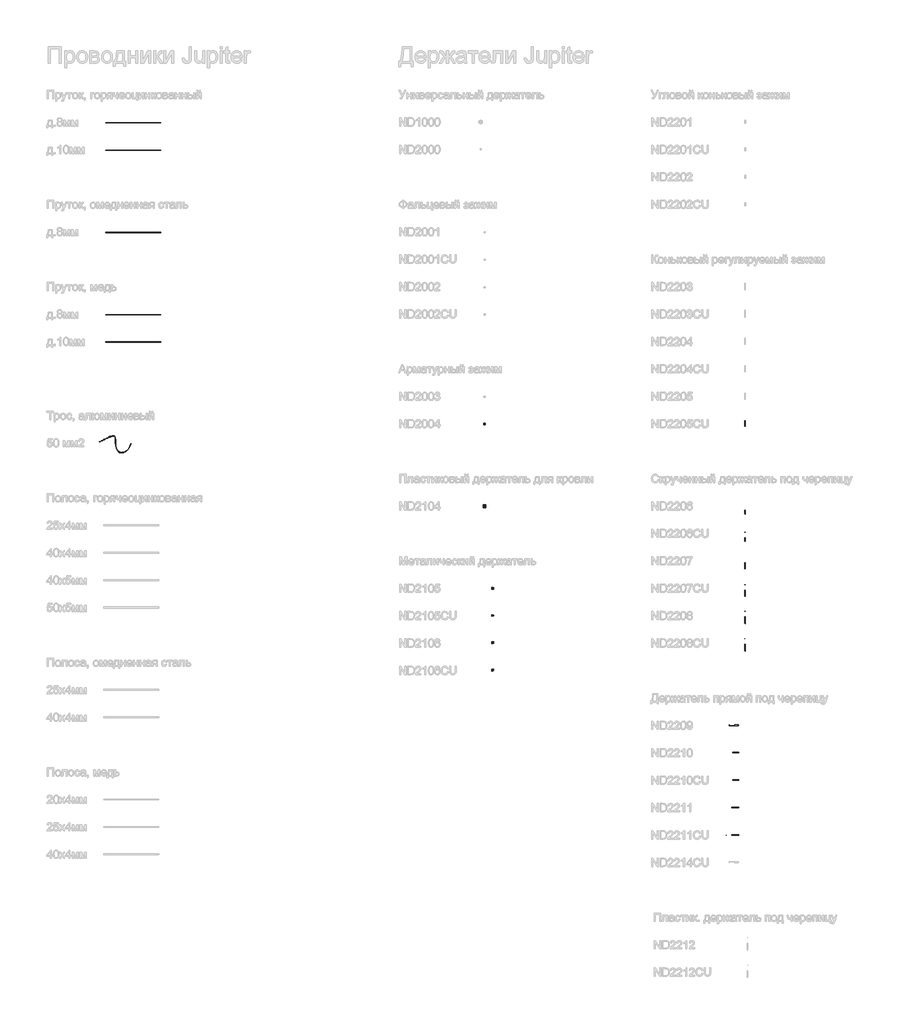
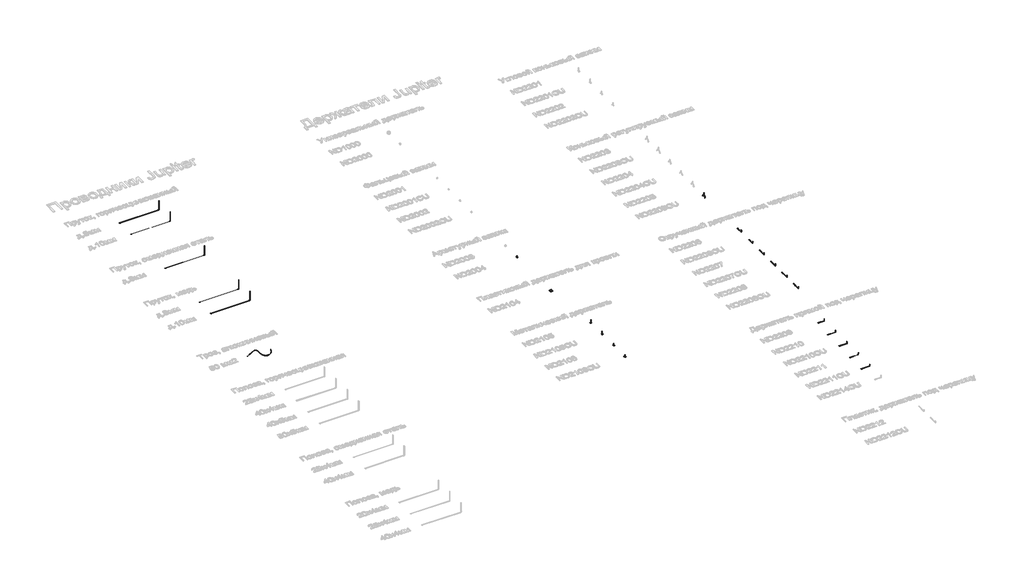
# One storey, part 3 of 124: 18 proxies, 11 duct segments, 5 duct fittings.
"""IFC4 building model written with IfcOpenShell, lengths in millimetres."""

from ifc_helpers import new_model, si_unit, point, frame, frame_2d, origin, place, context, project, spatial, circle_curve, ellipse_curve, trimmed, segment, composite_curve, outline, extrude, transform, mapped, element, save
from ifc_brep_helpers import plane_surface, cylinder_surface, advanced_brep
from components import security_devices_46811bfe, security_devices_d11747f8, security_devices_0d63e940, security_devices_2193f6d6, security_devices_3cd45d94, security_devices_07f9beaf, security_devices_07dcc4bf, security_devices_0ba9905d, security_devices_241d8431, security_devices_8fedeb6c, security_devices_5349010f, duct_fitting_cd562be5, duct_fitting_c2324ee3

model = new_model("IFC4")

# Units and contexts
model_context = context("Model", 3, world=origin())
ifc_project = project(units=[si_unit("LENGTHUNIT", "METRE", prefix="MILLI")], contexts=[model_context])

# Site, building, storey
site = spatial("IfcSite", under=ifc_project)
building = spatial("IfcBuilding", under=site)
storey = spatial("IfcBuildingStorey", under=building, Name="Этаж 01", Elevation=0.0)

# Proxies
placement = place(None, origin())
security_devices_shape = security_devices_46811bfe(model_context)
element("IfcBuildingElementProxy", 1, Name="КНС_ЗажимКоньковыйРегулируемый_DKC : ND2205CU_Медь", ObjectType="КНС_ЗажимКоньковыйРегулируемый_DKC : ND2205CU_Медь", at=placement, inside=storey, context=model_context, shape_type="MappedRepresentation", body=[
    mapped(security_devices_shape, transform((26740.3450598, -16375.2224286, 0.0), x_axis=(1.0, 0.0, 0.0), y_axis=(0.0, 1.0, 0.0), z_axis=(0.0, 0.0, 1.0))),
])
security_devices_2_shape = security_devices_d11747f8(model_context)
element("IfcBuildingElementProxy", 2, Name="КНС_ДержательПрямойПодЧерепицу_DKC : ND2209_Сталь горячеоцинкованная_330 мм", ObjectType="КНС_ДержательПрямойПодЧерепицу_DKC : ND2209_Сталь горячеоцинкованная_330 мм", at=placement, inside=storey, context=model_context, shape_type="MappedRepresentation", body=[
    mapped(security_devices_2_shape, transform((26500.3450598, -27365.2224286, 0.0), x_axis=(0.0, 1.0, 0.0), y_axis=(-1.0, 0.0, 0.0), z_axis=(0.0, 0.0, 1.0))),
])
security_devices_3_shape = security_devices_0d63e940(model_context)
element("IfcBuildingElementProxy", 3, Name="КНС_ДержательПрямойПодЧерепицу_DKC : ND2210_Сталь горячеоцинкованная_415 мм", ObjectType="КНС_ДержательПрямойПодЧерепицу_DKC : ND2210_Сталь горячеоцинкованная_415 мм", at=placement, inside=storey, context=model_context, shape_type="MappedRepresentation", body=[
    mapped(security_devices_3_shape, transform((26500.3450598, -28365.2224286, 0.0), x_axis=(0.0, 1.0, 0.0), y_axis=(-1.0, 0.0, 0.0), z_axis=(0.0, 0.0, 1.0))),
])
element("IfcBuildingElementProxy", 4, Name="КНС_ДержательПрямойПодЧерепицу_DKC : ND2210CU_Медь_415 мм", ObjectType="КНС_ДержательПрямойПодЧерепицу_DKC : ND2210CU_Медь_415 мм", at=placement, inside=storey, context=model_context, shape_type="MappedRepresentation", body=[
    mapped(security_devices_3_shape, transform((26500.3450598, -29365.2224286, 0.0), x_axis=(0.0, 1.0, 0.0), y_axis=(-1.0, 0.0, 0.0), z_axis=(0.0, 0.0, 1.0))),
])
security_devices_4_shape = security_devices_2193f6d6(model_context)
element("IfcBuildingElementProxy", 5, Name="КНС_ДержательПрямойПодЧерепицу_DKC : ND2211_Сталь горячеоцинкованная_450 мм", ObjectType="КНС_ДержательПрямойПодЧерепицу_DKC : ND2211_Сталь горячеоцинкованная_450 мм", at=placement, inside=storey, context=model_context, shape_type="MappedRepresentation", body=[
    mapped(security_devices_4_shape, transform((26500.3450598, -30365.2224286, 0.0), x_axis=(0.0, 1.0, 0.0), y_axis=(-1.0, 0.0, 0.0), z_axis=(0.0, 0.0, 1.0))),
])
element("IfcBuildingElementProxy", 6, Name="КНС_ДержательПрямойПодЧерепицу_DKC : ND2211CU_Медь_450 мм", ObjectType="КНС_ДержательПрямойПодЧерепицу_DKC : ND2211CU_Медь_450 мм", at=placement, inside=storey, context=model_context, shape_type="MappedRepresentation", body=[
    mapped(security_devices_4_shape, transform((26500.3450598, -31365.2224286, 0.0), x_axis=(0.0, 1.0, 0.0), y_axis=(-1.0, 0.0, 0.0), z_axis=(0.0, 0.0, 1.0))),
])
security_devices_5_shape = security_devices_3cd45d94(model_context)
element("IfcBuildingElementProxy", 7, Name="КНС_ЗажимАрматурный_DKC : ND2004_Гальванически оцинкованнная сталь_С наконечником", ObjectType="КНС_ЗажимАрматурный_DKC : ND2004_Гальванически оцинкованнная сталь_С наконечником", at=placement, inside=storey, context=model_context, shape_type="MappedRepresentation", body=[
    mapped(security_devices_5_shape, transform((17240.3450598, -16385.2224286, 0.0), x_axis=(1.0, 0.0, 0.0), y_axis=(0.0, 1.0, 0.0), z_axis=(0.0, 0.0, 1.0))),
])
security_devices_6_shape = security_devices_07f9beaf(model_context)
element("IfcBuildingElementProxy", 8, Name="КНС_ДержательПластиковыйДляКровли_DKC : ND2104_Полипропилен", ObjectType="КНС_ДержательПластиковыйДляКровли_DKC : ND2104_Полипропилен", at=placement, inside=storey, context=model_context, shape_type="MappedRepresentation", body=[
    mapped(security_devices_6_shape, transform((17240.3450598, -19385.2224286, 0.0), x_axis=(1.0, 0.0, 0.0), y_axis=(0.0, 1.0, 0.0), z_axis=(0.0, 0.0, 1.0))),
])
security_devices_7_shape = security_devices_07dcc4bf(model_context)
element("IfcBuildingElementProxy", 9, Name="КНС_ДержательМеталлический_DKC : ND2105_Горячеоцинкованная сталь_150 мм", ObjectType="КНС_ДержательМеталлический_DKC : ND2105_Горячеоцинкованная сталь_150 мм", at=placement, inside=storey, context=model_context, shape_type="MappedRepresentation", body=[
    mapped(security_devices_7_shape, transform((17540.3450598, -22365.2224286, 0.0), x_axis=(1.0, 0.0, 0.0), y_axis=(0.0, 1.0, 0.0), z_axis=(0.0, 0.0, 1.0))),
])
security_devices_8_shape = security_devices_0ba9905d(model_context)
element("IfcBuildingElementProxy", 10, Name="КНС_ДержательМеталлический_DKC : ND2106_Горячеоцинкованная сталь_100 мм", ObjectType="КНС_ДержательМеталлический_DKC : ND2106_Горячеоцинкованная сталь_100 мм", at=placement, inside=storey, context=model_context, shape_type="MappedRepresentation", body=[
    mapped(security_devices_8_shape, transform((17540.3450598, -24365.2224286, 0.0), x_axis=(1.0, 0.0, 0.0), y_axis=(0.0, 1.0, 0.0), z_axis=(0.0, 0.0, 1.0))),
])
element("IfcBuildingElementProxy", 11, Name="КНС_ДержательМеталлический_DKC : ND2105CU_Медь_150 мм", ObjectType="КНС_ДержательМеталлический_DKC : ND2105CU_Медь_150 мм", at=placement, inside=storey, context=model_context, shape_type="MappedRepresentation", body=[
    mapped(security_devices_7_shape, transform((17540.3450598, -23365.2224286, 0.0), x_axis=(1.0, 0.0, 0.0), y_axis=(0.0, 1.0, 0.0), z_axis=(0.0, 0.0, 1.0))),
])
element("IfcBuildingElementProxy", 12, Name="КНС_ДержательМеталлический_DKC : ND2106CU_Медь_100 мм", ObjectType="КНС_ДержательМеталлический_DKC : ND2106CU_Медь_100 мм", at=placement, inside=storey, context=model_context, shape_type="MappedRepresentation", body=[
    mapped(security_devices_8_shape, transform((17540.3450598, -25365.2224286, 0.0), x_axis=(1.0, 0.0, 0.0), y_axis=(0.0, 1.0, 0.0), z_axis=(0.0, 0.0, 1.0))),
])
security_devices_9_shape = security_devices_241d8431(model_context)
element("IfcBuildingElementProxy", 13, Name="КНС_ДержательСкрученныйПодЧерепицу_DKC : ND2206_Сталь горячеоцинкованная_330 мм", ObjectType="КНС_ДержательСкрученныйПодЧерепицу_DKC : ND2206_Сталь горячеоцинкованная_330 мм", at=placement, inside=storey, context=model_context, shape_type="MappedRepresentation", body=[
    mapped(security_devices_9_shape, transform((26740.3450598, -19665.2224286, 0.0), x_axis=(1.0, 0.0, 0.0), y_axis=(0.0, 1.0, 0.0), z_axis=(0.0, 0.0, 1.0))),
])
security_devices_10_shape = security_devices_8fedeb6c(model_context)
element("IfcBuildingElementProxy", 14, Name="КНС_ДержательСкрученныйПодЧерепицу_DKC : ND2207_Сталь горячеоцинкованная_415 мм", ObjectType="КНС_ДержательСкрученныйПодЧерепицу_DKC : ND2207_Сталь горячеоцинкованная_415 мм", at=placement, inside=storey, context=model_context, shape_type="MappedRepresentation", body=[
    mapped(security_devices_10_shape, transform((26740.3450598, -21665.2224286, 0.0), x_axis=(1.0, 0.0, 0.0), y_axis=(0.0, 1.0, 0.0), z_axis=(0.0, 0.0, 1.0))),
])
element("IfcBuildingElementProxy", 15, Name="КНС_ДержательСкрученныйПодЧерепицу_DKC : ND2207CU_Медь_415 мм", ObjectType="КНС_ДержательСкрученныйПодЧерепицу_DKC : ND2207CU_Медь_415 мм", at=placement, inside=storey, context=model_context, shape_type="MappedRepresentation", body=[
    mapped(security_devices_10_shape, transform((26740.3450598, -22665.2224286, 0.0), x_axis=(1.0, 0.0, 0.0), y_axis=(0.0, 1.0, 0.0), z_axis=(0.0, 0.0, 1.0))),
])
security_devices_11_shape = security_devices_5349010f(model_context)
element("IfcBuildingElementProxy", 16, Name="КНС_ДержательСкрученныйПодЧерепицу_DKC : ND2208_Сталь горячеоцинкованная_450 мм", ObjectType="КНС_ДержательСкрученныйПодЧерепицу_DKC : ND2208_Сталь горячеоцинкованная_450 мм", at=placement, inside=storey, context=model_context, shape_type="MappedRepresentation", body=[
    mapped(security_devices_11_shape, transform((26740.3450598, -23665.2224286, 0.0), x_axis=(1.0, 0.0, 0.0), y_axis=(0.0, 1.0, 0.0), z_axis=(0.0, 0.0, 1.0))),
])
element("IfcBuildingElementProxy", 17, Name="КНС_ДержательСкрученныйПодЧерепицу_DKC : ND2208CU_Медь_450 мм", ObjectType="КНС_ДержательСкрученныйПодЧерепицу_DKC : ND2208CU_Медь_450 мм", at=placement, inside=storey, context=model_context, shape_type="MappedRepresentation", body=[
    mapped(security_devices_11_shape, transform((26740.3450598, -24665.2224286, 0.0), x_axis=(1.0, 0.0, 0.0), y_axis=(0.0, 1.0, 0.0), z_axis=(0.0, 0.0, 1.0))),
])
element("IfcBuildingElementProxy", 18, Name="КНС_ДержательСкрученныйПодЧерепицу_DKC : ND2206CU_Медь_330 мм", ObjectType="КНС_ДержательСкрученныйПодЧерепицу_DKC : ND2206CU_Медь_330 мм", at=placement, inside=storey, context=model_context, shape_type="MappedRepresentation", body=[
    mapped(security_devices_9_shape, transform((26740.3450598, -20665.2224286, 0.0), x_axis=(1.0, 0.0, 0.0), y_axis=(0.0, 1.0, 0.0), z_axis=(0.0, 0.0, 1.0))),
])

# Duct fittings
duct_fitting_shape = duct_fitting_cd562be5(model_context)
element("IfcDuctFitting", 19, ObjectType="КНС_Поворот_Пруток_Неспецифицируемое_DKC : Стандарт", at=placement, inside=storey, context=model_context, shape_type="MappedRepresentation", body=[
    mapped(duct_fitting_shape, transform((5428.5248849, -5395.1979836, 0.0), x_axis=(1.0, 0.0, 0.0), y_axis=(0.0, 0.0, 1.0), z_axis=(0.0, -1.0, 0.0))),
])
element("IfcDuctFitting", 20, ObjectType="КНС_Поворот_Пруток_Неспецифицируемое_DKC : Стандарт", at=placement, inside=storey, context=model_context, shape_type="MappedRepresentation", body=[
    mapped(duct_fitting_shape, transform((5428.5248849, -9395.1979836, 0.0), x_axis=(1.0, 0.0, 0.0), y_axis=(0.0, 0.0, 1.0), z_axis=(0.0, -1.0, 0.0))),
])
element("IfcDuctFitting", 21, ObjectType="КНС_Поворот_Пруток_Неспецифицируемое_DKC : Стандарт", at=placement, inside=storey, context=model_context, shape_type="MappedRepresentation", body=[
    mapped(duct_fitting_shape, transform((5428.5248849, -12395.1979836, 0.0), x_axis=(0.0, 0.0, -1.0), y_axis=(-1.0, 0.0, 0.0), z_axis=(0.0, 1.0, 0.0))),
])
duct_fitting_2_shape = duct_fitting_c2324ee3(model_context)
element("IfcDuctFitting", 22, ObjectType="КНС_Поворот_Пруток_Неспецифицируемое_DKC : Стандарт", at=placement, inside=storey, context=model_context, shape_type="MappedRepresentation", body=[
    mapped(duct_fitting_2_shape, transform((5428.5248849, -6395.1979836, 0.0), x_axis=(1.0, 0.0, 0.0), y_axis=(0.0, 0.0, 1.0), z_axis=(0.0, -1.0, 0.0))),
])
element("IfcDuctFitting", 23, ObjectType="КНС_Поворот_Пруток_Неспецифицируемое_DKC : Стандарт", at=placement, inside=storey, context=model_context, shape_type="MappedRepresentation", body=[
    mapped(duct_fitting_2_shape, transform((5428.5248849, -13395.1979836, 0.0), x_axis=(1.0, 0.0, 0.0), y_axis=(0.0, 0.0, 1.0), z_axis=(0.0, -1.0, 0.0))),
])

# Duct segments
element("IfcDuctSegment", 24, ObjectType="КНС_Пруток_Горячеоцинкованный_8/10мм_DKC", at=placement, inside=storey, context=model_context, shape_type="SweptSolid", body=[
    extrude(outline(composite_curve([segment(trimmed(circle_curve(frame_2d((-5395.1979836, 0.0)), 4.0), [point((-5399.1979836, 0.0))], [point((-5395.1979836, 4.0))], False, "CARTESIAN"), True, "CONTINUOUS"), segment(trimmed(circle_curve(frame_2d((-5395.1979836, 0.0)), 4.0), [point((-5395.1979836, 4.0))], [point((-5391.1979836, 0.0))], False, "CARTESIAN"), True, "CONTINUOUS"), segment(trimmed(circle_curve(frame_2d((-5395.1979836, 0.0)), 4.0), [point((-5391.1979836, 0.0))], [point((-5395.1979836, -4.0))], False, "CARTESIAN"), True, "CONTINUOUS"), segment(trimmed(circle_curve(frame_2d((-5395.1979836, 0.0)), 4.0), [point((-5395.1979836, -4.0))], [point((-5399.1979836, 0.0))], False, "CARTESIAN"), True, "CONTINUOUS")], self_intersect=False)), frame((3428.5248849, 0.0, 0.0), z_axis=(1.0, 0.0, 0.0), x_axis=(0.0, 1.0, 0.0)), (0.0, 0.0, 1.0), 1992.0),
])
element("IfcDuctSegment", 25, ObjectType="КНС_Пруток_Горячеоцинкованный_8/10мм_DKC", at=placement, inside=storey, context=model_context, shape_type="SweptSolid", body=[
    extrude(outline(composite_curve([segment(trimmed(circle_curve(frame_2d((5428.5248849, -5395.1979836)), 4.0), [point((5428.5248849, -5399.1979836))], [point((5424.5248849, -5395.1979836))], False, "CARTESIAN"), True, "CONTINUOUS"), segment(trimmed(circle_curve(frame_2d((5428.5248849, -5395.1979836)), 4.0), [point((5424.5248849, -5395.1979836))], [point((5428.5248849, -5391.1979836))], False, "CARTESIAN"), True, "CONTINUOUS"), segment(trimmed(circle_curve(frame_2d((5428.5248849, -5395.1979836)), 4.0), [point((5428.5248849, -5391.1979836))], [point((5432.5248849, -5395.1979836))], False, "CARTESIAN"), True, "CONTINUOUS"), segment(trimmed(circle_curve(frame_2d((5428.5248849, -5395.1979836)), 4.0), [point((5432.5248849, -5395.1979836))], [point((5428.5248849, -5399.1979836))], False, "CARTESIAN"), True, "CONTINUOUS")], self_intersect=False)), frame((0.0, 0.0, 8.0), z_axis=(0.0, 0.0, 1.0), x_axis=(1.0, 0.0, 0.0)), (0.0, 0.0, 1.0), 492.0),
])
element("IfcDuctSegment", 26, ObjectType="КНС_Пруток_Горячеоцинкованный_8/10мм_DKC", at=placement, inside=storey, context=model_context, shape_type="SweptSolid", body=[
    extrude(outline(composite_curve([segment(trimmed(circle_curve(frame_2d((-6395.1979836, 0.0)), 5.0), [point((-6400.1979836, 0.0))], [point((-6395.1979836, 5.0))], False, "CARTESIAN"), True, "CONTINUOUS"), segment(trimmed(circle_curve(frame_2d((-6395.1979836, 0.0)), 5.0), [point((-6395.1979836, 5.0))], [point((-6390.1979836, 0.0))], False, "CARTESIAN"), True, "CONTINUOUS"), segment(trimmed(circle_curve(frame_2d((-6395.1979836, 0.0)), 5.0), [point((-6390.1979836, 0.0))], [point((-6395.1979836, -5.0))], False, "CARTESIAN"), True, "CONTINUOUS"), segment(trimmed(circle_curve(frame_2d((-6395.1979836, 0.0)), 5.0), [point((-6395.1979836, -5.0))], [point((-6400.1979836, 0.0))], False, "CARTESIAN"), True, "CONTINUOUS")], self_intersect=False)), frame((3428.5248849, 0.0, 0.0), z_axis=(1.0, 0.0, 0.0), x_axis=(0.0, 1.0, 0.0)), (0.0, 0.0, 1.0), 1990.0),
])
element("IfcDuctSegment", 27, ObjectType="КНС_Пруток_Горячеоцинкованный_8/10мм_DKC", at=placement, inside=storey, context=model_context, shape_type="SweptSolid", body=[
    extrude(outline(composite_curve([segment(trimmed(circle_curve(frame_2d((5428.5248849, -6395.1979836)), 5.0), [point((5428.5248849, -6400.1979836))], [point((5423.5248849, -6395.1979836))], False, "CARTESIAN"), True, "CONTINUOUS"), segment(trimmed(circle_curve(frame_2d((5428.5248849, -6395.1979836)), 5.0), [point((5423.5248849, -6395.1979836))], [point((5428.5248849, -6390.1979836))], False, "CARTESIAN"), True, "CONTINUOUS"), segment(trimmed(circle_curve(frame_2d((5428.5248849, -6395.1979836)), 5.0), [point((5428.5248849, -6390.1979836))], [point((5433.5248849, -6395.1979836))], False, "CARTESIAN"), True, "CONTINUOUS"), segment(trimmed(circle_curve(frame_2d((5428.5248849, -6395.1979836)), 5.0), [point((5433.5248849, -6395.1979836))], [point((5428.5248849, -6400.1979836))], False, "CARTESIAN"), True, "CONTINUOUS")], self_intersect=False)), frame((0.0, 0.0, 10.0), z_axis=(0.0, 0.0, 1.0), x_axis=(1.0, 0.0, 0.0)), (0.0, 0.0, 1.0), 490.0),
])
element("IfcDuctSegment", 28, ObjectType="КНС_Пруток_ОмедненнаяСталь_8_DKC", at=placement, inside=storey, context=model_context, shape_type="SweptSolid", body=[
    extrude(outline(composite_curve([segment(trimmed(circle_curve(frame_2d((-9395.1979836, 0.0)), 4.0), [point((-9399.1979836, 0.0))], [point((-9395.1979836, 4.0))], False, "CARTESIAN"), True, "CONTINUOUS"), segment(trimmed(circle_curve(frame_2d((-9395.1979836, 0.0)), 4.0), [point((-9395.1979836, 4.0))], [point((-9391.1979836, 0.0))], False, "CARTESIAN"), True, "CONTINUOUS"), segment(trimmed(circle_curve(frame_2d((-9395.1979836, 0.0)), 4.0), [point((-9391.1979836, 0.0))], [point((-9395.1979836, -4.0))], False, "CARTESIAN"), True, "CONTINUOUS"), segment(trimmed(circle_curve(frame_2d((-9395.1979836, 0.0)), 4.0), [point((-9395.1979836, -4.0))], [point((-9399.1979836, 0.0))], False, "CARTESIAN"), True, "CONTINUOUS")], self_intersect=False)), frame((3428.5248849, 0.0, 0.0), z_axis=(1.0, 0.0, 0.0), x_axis=(0.0, 1.0, 0.0)), (0.0, 0.0, 1.0), 1992.0),
])
element("IfcDuctSegment", 29, ObjectType="КНС_Пруток_ОмедненнаяСталь_8_DKC", at=placement, inside=storey, context=model_context, shape_type="SweptSolid", body=[
    extrude(outline(composite_curve([segment(trimmed(circle_curve(frame_2d((5428.5248849, -9395.1979836)), 4.0), [point((5428.5248849, -9399.1979836))], [point((5424.5248849, -9395.1979836))], False, "CARTESIAN"), True, "CONTINUOUS"), segment(trimmed(circle_curve(frame_2d((5428.5248849, -9395.1979836)), 4.0), [point((5424.5248849, -9395.1979836))], [point((5428.5248849, -9391.1979836))], False, "CARTESIAN"), True, "CONTINUOUS"), segment(trimmed(circle_curve(frame_2d((5428.5248849, -9395.1979836)), 4.0), [point((5428.5248849, -9391.1979836))], [point((5432.5248849, -9395.1979836))], False, "CARTESIAN"), True, "CONTINUOUS"), segment(trimmed(circle_curve(frame_2d((5428.5248849, -9395.1979836)), 4.0), [point((5432.5248849, -9395.1979836))], [point((5428.5248849, -9399.1979836))], False, "CARTESIAN"), True, "CONTINUOUS")], self_intersect=False)), frame((0.0, 0.0, 8.0), z_axis=(0.0, 0.0, 1.0), x_axis=(1.0, 0.0, 0.0)), (0.0, 0.0, 1.0), 492.0),
])
element("IfcDuctSegment", 30, ObjectType="КНС_Пруток_Медь_8/10мм_DKC", at=placement, inside=storey, context=model_context, shape_type="SweptSolid", body=[
    extrude(outline(composite_curve([segment(trimmed(circle_curve(frame_2d((-12395.1979836, 0.0)), 4.0), [point((-12391.1979836, 0.0))], [point((-12395.1979836, -4.0))], False, "CARTESIAN"), True, "CONTINUOUS"), segment(trimmed(circle_curve(frame_2d((-12395.1979836, 0.0)), 4.0), [point((-12395.1979836, -4.0))], [point((-12399.1979836, 0.0))], False, "CARTESIAN"), True, "CONTINUOUS"), segment(trimmed(circle_curve(frame_2d((-12395.1979836, 0.0)), 4.0), [point((-12399.1979836, 0.0))], [point((-12395.1979836, 4.0))], False, "CARTESIAN"), True, "CONTINUOUS"), segment(trimmed(circle_curve(frame_2d((-12395.1979836, 0.0)), 4.0), [point((-12395.1979836, 4.0))], [point((-12391.1979836, 0.0))], False, "CARTESIAN"), True, "CONTINUOUS")], self_intersect=False)), frame((3428.5248849, 0.0, 0.0), z_axis=(1.0, 0.0, 0.0), x_axis=(0.0, 1.0, 0.0)), (0.0, 0.0, 1.0), 1992.0),
])
element("IfcDuctSegment", 31, ObjectType="КНС_Пруток_Медь_8/10мм_DKC", at=placement, inside=storey, context=model_context, shape_type="SweptSolid", body=[
    extrude(outline(composite_curve([segment(trimmed(circle_curve(frame_2d((5428.5248849, -12395.1979836)), 4.0), [point((5428.5248849, -12391.1979836))], [point((5432.5248849, -12395.1979836))], False, "CARTESIAN"), True, "CONTINUOUS"), segment(trimmed(circle_curve(frame_2d((5428.5248849, -12395.1979836)), 4.0), [point((5432.5248849, -12395.1979836))], [point((5428.5248849, -12399.1979836))], False, "CARTESIAN"), True, "CONTINUOUS"), segment(trimmed(circle_curve(frame_2d((5428.5248849, -12395.1979836)), 4.0), [point((5428.5248849, -12399.1979836))], [point((5424.5248849, -12395.1979836))], False, "CARTESIAN"), True, "CONTINUOUS"), segment(trimmed(circle_curve(frame_2d((5428.5248849, -12395.1979836)), 4.0), [point((5424.5248849, -12395.1979836))], [point((5428.5248849, -12391.1979836))], False, "CARTESIAN"), True, "CONTINUOUS")], self_intersect=False)), frame((0.0, 0.0, 8.0), z_axis=(0.0, 0.0, 1.0), x_axis=(1.0, 0.0, 0.0)), (0.0, 0.0, 1.0), 492.0),
])
element("IfcDuctSegment", 32, ObjectType="КНС_Пруток_Медь_8/10мм_DKC", at=placement, inside=storey, context=model_context, shape_type="SweptSolid", body=[
    extrude(outline(composite_curve([segment(trimmed(circle_curve(frame_2d((-13395.1979836, 0.0)), 5.0), [point((-13400.1979836, 0.0))], [point((-13395.1979836, 5.0))], False, "CARTESIAN"), True, "CONTINUOUS"), segment(trimmed(circle_curve(frame_2d((-13395.1979836, 0.0)), 5.0), [point((-13395.1979836, 5.0))], [point((-13390.1979836, 0.0))], False, "CARTESIAN"), True, "CONTINUOUS"), segment(trimmed(circle_curve(frame_2d((-13395.1979836, 0.0)), 5.0), [point((-13390.1979836, 0.0))], [point((-13395.1979836, -5.0))], False, "CARTESIAN"), True, "CONTINUOUS"), segment(trimmed(circle_curve(frame_2d((-13395.1979836, 0.0)), 5.0), [point((-13395.1979836, -5.0))], [point((-13400.1979836, 0.0))], False, "CARTESIAN"), True, "CONTINUOUS")], self_intersect=False)), frame((3428.5248849, 0.0, 0.0), z_axis=(1.0, 0.0, 0.0), x_axis=(0.0, 1.0, 0.0)), (0.0, 0.0, 1.0), 1990.0),
])
element("IfcDuctSegment", 33, ObjectType="КНС_Пруток_Медь_8/10мм_DKC", at=placement, inside=storey, context=model_context, shape_type="SweptSolid", body=[
    extrude(outline(composite_curve([segment(trimmed(circle_curve(frame_2d((5428.5248849, -13395.1979836)), 5.0), [point((5428.5248849, -13400.1979836))], [point((5423.5248849, -13395.1979836))], False, "CARTESIAN"), True, "CONTINUOUS"), segment(trimmed(circle_curve(frame_2d((5428.5248849, -13395.1979836)), 5.0), [point((5423.5248849, -13395.1979836))], [point((5428.5248849, -13390.1979836))], False, "CARTESIAN"), True, "CONTINUOUS"), segment(trimmed(circle_curve(frame_2d((5428.5248849, -13395.1979836)), 5.0), [point((5428.5248849, -13390.1979836))], [point((5433.5248849, -13395.1979836))], False, "CARTESIAN"), True, "CONTINUOUS"), segment(trimmed(circle_curve(frame_2d((5428.5248849, -13395.1979836)), 5.0), [point((5433.5248849, -13395.1979836))], [point((5428.5248849, -13400.1979836))], False, "CARTESIAN"), True, "CONTINUOUS")], self_intersect=False)), frame((0.0, 0.0, 10.0), z_axis=(0.0, 0.0, 1.0), x_axis=(1.0, 0.0, 0.0)), (0.0, 0.0, 1.0), 490.0),
])
element("IfcDuctSegment", 34, ObjectType="КНС_Трос_Алюминиевый_DKC", at=placement, inside=storey, context=model_context, shape_type="AdvancedBrep", body=[
    advanced_brep(
    [(3194.4862504, -17028.2825187, 0.0), (3196.4641242, -17032.8746876, -5.0), (3198.441998, -17037.4668565, 0.0), (3196.4641242, -17032.8746876, 5.0), (3279.2612409, -16991.7694385, 0.0), (3281.3885088, -16996.2972625, -5.0), (3283.5157766, -17000.8250866, 0.0), (3281.3885088, -16996.2972625, 5.0), (4337.6199948, -17093.4071514, 0.0), (4342.2882836, -17095.1979836, 5.0), (4346.9565724, -17096.9888158, 0.0), (4342.2882836, -17095.1979836, -5.0), (3371.3969075, -16944.766342, 0.0), (3373.6690714, -16949.2202472, -5.0), (3375.9412353, -16953.6741523, 0.0), (3373.6690714, -16949.2202472, 5.0), (3465.4284082, -16895.13407, 0.0), (3467.7623479, -16899.5559164, -5.0), (3470.0962877, -16903.9777627, 0.0), (3467.7623479, -16899.5559164, 5.0), (3556.12426, -16850.62872, 0.0), (3558.124874, -16855.2165451, -5.0), (3560.125488, -16859.8043702, 0.0), (3558.124874, -16855.2165451, 5.0), (3637.9315422, -16819.2508157, 0.0), (3639.2131855, -16824.1144083, -5.0), (3640.4948289, -16828.978001, 0.0), (3639.2131855, -16824.1144083, 5.0), (3706.1189776, -16809.0103199, 0.0), (3705.4838181, -16814.161781, -5.0), (3704.8486587, -16819.3132421, 0.0), (3705.4838181, -16814.161781, 5.0), (3755.1846144, -16829.4331471, 0.0), (3751.3933256, -16833.2709172, -5.0), (3747.6020367, -16837.1086873, 0.0), (3751.3933256, -16833.2709172, 5.0), (3779.0720504, -16884.9073124, 0.0), (3774.1660912, -16886.1564661, -5.0), (3769.260132, -16887.4056198, 0.0), (3774.1660912, -16886.1564661, 5.0), (3786.4798109, -16965.168101, 0.0), (3781.484671, -16965.4510087, -5.0), (3776.489531, -16965.7339165, 0.0), (3781.484671, -16965.4510087, 5.0), (3788.4977093, -17060.7122554, 0.0), (3783.5012774, -17060.9339932, -5.0), (3778.5048455, -17061.1557309, 0.0), (3783.5012774, -17060.9339932, 5.0), (3795.3312892, -17161.6716624, 0.0), (3790.368123, -17162.3848673, -5.0), (3785.4049567, -17163.0980721, 0.0), (3790.368123, -17162.3848673, 5.0), (3816.6440642, -17257.9460643, 0.0), (3811.8883233, -17259.5962538, -5.0), (3807.1325823, -17261.2464434, 0.0), (3811.8883233, -17259.5962538, 5.0), (3856.1331051, -17339.6699782, 0.0), (3851.9873692, -17342.582594, -5.0), (3847.8416333, -17345.4952098, 0.0), (3851.9873692, -17342.582594, 5.0), (3912.4511953, -17397.199003, 0.0), (3909.7063807, -17401.5426624, -5.0), (3906.9615662, -17405.8863218, 0.0), (3909.7063807, -17401.5426624, 5.0), (3984.3209258, -17421.9025843, 0.0), (3983.7602081, -17426.9969772, -5.0), (3983.1994903, -17432.09137, 0.0), (3983.7602081, -17426.9969772, 5.0), (4067.020635, -17412.6157902, 0.0), (4068.3420192, -17417.4988317, -5.0), (4069.6634033, -17422.3818732, 0.0), (4068.3420192, -17417.4988317, 5.0), (4150.2746469, -17375.7631197, 0.0), (4152.8715355, -17380.0815548, -5.0), (4155.4684242, -17384.39999, 0.0), (4152.8715355, -17380.0815548, 5.0), (4222.9195957, -17318.670213, 0.0), (4226.5401193, -17322.1841559, -5.0), (4230.160643, -17325.6980988, 0.0), (4226.5401193, -17322.1841559, 5.0), (4274.5963013, -17248.7123677, 0.0), (4278.9633646, -17251.2156752, -5.0), (4283.330428, -17253.7189828, 0.0), (4278.9633646, -17251.2156752, 5.0), (4307.5366364, -17171.8275668, 0.0), (4312.1704694, -17173.7082171, -5.0), (4316.8043025, -17175.5888674, 0.0), (4312.1704694, -17173.7082171, 5.0)],
    [
        (0, 1, circle_curve(frame((3196.4641242, -17032.8746876, 0.0), z_axis=(-0.9184337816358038, -0.3955747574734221, 0.0), x_axis=(-0.3955747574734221, 0.9184337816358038, 0.0)), 5.0)),
        (1, 2, circle_curve(frame((3196.4641242, -17032.8746876, 0.0), z_axis=(-0.9184337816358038, -0.3955747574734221, 0.0), x_axis=(-0.3955747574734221, 0.9184337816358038, 0.0)), 5.0)),
        (2, 3, circle_curve(frame((3196.4641242, -17032.8746876, 0.0), z_axis=(-0.9184337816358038, -0.3955747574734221, 0.0), x_axis=(-0.3955747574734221, 0.9184337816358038, 0.0)), 5.0)),
        (3, 0, circle_curve(frame((3196.4641242, -17032.8746876, 0.0), z_axis=(-0.9184337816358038, -0.3955747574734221, 0.0), x_axis=(-0.3955747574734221, 0.9184337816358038, 0.0)), 5.0)),
        (0, 4),
        (4, 5, ellipse_curve(frame((3281.3885088, -16996.2972625, 0.0), z_axis=(-0.9050859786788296, -0.42522861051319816, 0.0), x_axis=(-0.4252286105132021, 0.9050859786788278, 0.0)), 5.0026452, 5.0)),
        (5, 1),
        (5, 6, ellipse_curve(frame((3281.3885088, -16996.2972625, 0.0), z_axis=(-0.9050859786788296, -0.42522861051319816, 0.0), x_axis=(-0.4252286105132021, 0.9050859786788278, 0.0)), 5.0026452, 5.0)),
        (6, 2),
        (6, 7, ellipse_curve(frame((3281.3885088, -16996.2972625, 0.0), z_axis=(-0.9050859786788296, -0.42522861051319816, 0.0), x_axis=(-0.4252286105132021, 0.9050859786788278, 0.0)), 5.0026452, 5.0)),
        (7, 3),
        (7, 4, ellipse_curve(frame((3281.3885088, -16996.2972625, 0.0), z_axis=(-0.9050859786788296, -0.42522861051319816, 0.0), x_axis=(-0.4252286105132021, 0.9050859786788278, 0.0)), 5.0026452, 5.0)),
        (8, 9, circle_curve(frame((4342.2882836, -17095.1979836, 0.0), z_axis=(0.3581664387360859, 0.9336577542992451, 0.0), x_axis=(-0.9336577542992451, 0.3581664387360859, 0.0)), 5.0)),
        (9, 10, circle_curve(frame((4342.2882836, -17095.1979836, 0.0), z_axis=(0.3581664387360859, 0.9336577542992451, 0.0), x_axis=(-0.9336577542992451, 0.3581664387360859, 0.0)), 5.0)),
        (10, 11, circle_curve(frame((4342.2882836, -17095.1979836, 0.0), z_axis=(0.3581664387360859, 0.9336577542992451, 0.0), x_axis=(-0.9336577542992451, 0.3581664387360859, 0.0)), 5.0)),
        (11, 8, circle_curve(frame((4342.2882836, -17095.1979836, 0.0), z_axis=(0.3581664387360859, 0.9336577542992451, 0.0), x_axis=(-0.9336577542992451, 0.3581664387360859, 0.0)), 5.0)),
        (4, 12),
        (12, 13, circle_curve(frame((3373.6690714, -16949.2202472, 0.0), z_axis=(-0.8907810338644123, -0.4544327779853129, 0.0), x_axis=(-0.4544327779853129, 0.8907810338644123, 0.0)), 5.0)),
        (13, 5),
        (13, 14, circle_curve(frame((3373.6690714, -16949.2202472, 0.0), z_axis=(-0.8907810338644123, -0.4544327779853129, 0.0), x_axis=(-0.4544327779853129, 0.8907810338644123, 0.0)), 5.0)),
        (14, 6),
        (14, 15, circle_curve(frame((3373.6690714, -16949.2202472, 0.0), z_axis=(-0.8907810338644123, -0.4544327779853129, 0.0), x_axis=(-0.4544327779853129, 0.8907810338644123, 0.0)), 5.0)),
        (15, 7),
        (15, 12, circle_curve(frame((3373.6690714, -16949.2202472, 0.0), z_axis=(-0.8907810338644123, -0.4544327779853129, 0.0), x_axis=(-0.4544327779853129, 0.8907810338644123, 0.0)), 5.0)),
        (12, 16),
        (16, 17, circle_curve(frame((3467.7623479, -16899.5559164, 0.0), z_axis=(-0.8843692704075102, -0.466787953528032, 0.0), x_axis=(-0.466787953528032, 0.8843692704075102, 0.0)), 5.0)),
        (17, 13),
        (17, 18, circle_curve(frame((3467.7623479, -16899.5559164, 0.0), z_axis=(-0.8843692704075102, -0.466787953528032, 0.0), x_axis=(-0.466787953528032, 0.8843692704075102, 0.0)), 5.0)),
        (18, 14),
        (18, 19, circle_curve(frame((3467.7623479, -16899.5559164, 0.0), z_axis=(-0.8843692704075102, -0.466787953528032, 0.0), x_axis=(-0.466787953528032, 0.8843692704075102, 0.0)), 5.0)),
        (19, 15),
        (19, 16, circle_curve(frame((3467.7623479, -16899.5559164, 0.0), z_axis=(-0.8843692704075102, -0.466787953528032, 0.0), x_axis=(-0.466787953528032, 0.8843692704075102, 0.0)), 5.0)),
        (16, 20),
        (20, 21, ellipse_curve(frame((3558.124874, -16855.2165451, 0.0), z_axis=(-0.9166379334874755, -0.3997185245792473, 0.0), x_axis=(0.39971852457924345, -0.9166379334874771, 0.0)), 5.005057, 5.0)),
        (21, 17),
        (21, 22, ellipse_curve(frame((3558.124874, -16855.2165451, 0.0), z_axis=(-0.9166379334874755, -0.3997185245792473, 0.0), x_axis=(0.39971852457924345, -0.9166379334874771, 0.0)), 5.005057, 5.0)),
        (22, 18),
        (22, 23, ellipse_curve(frame((3558.124874, -16855.2165451, 0.0), z_axis=(-0.9166379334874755, -0.3997185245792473, 0.0), x_axis=(0.39971852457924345, -0.9166379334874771, 0.0)), 5.005057, 5.0)),
        (23, 19),
        (23, 20, ellipse_curve(frame((3558.124874, -16855.2165451, 0.0), z_axis=(-0.9166379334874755, -0.3997185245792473, 0.0), x_axis=(0.39971852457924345, -0.9166379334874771, 0.0)), 5.005057, 5.0)),
        (20, 24),
        (24, 25, ellipse_curve(frame((3639.2131855, -16824.1144083, 0.0), z_axis=(-0.9669888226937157, -0.2548187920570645, 0.0), x_axis=(0.25481879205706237, -0.9669888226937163, 0.0)), 5.0296265, 5.0)),
        (25, 21),
        (25, 26, ellipse_curve(frame((3639.2131855, -16824.1144083, 0.0), z_axis=(-0.9669888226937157, -0.2548187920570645, 0.0), x_axis=(0.25481879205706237, -0.9669888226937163, 0.0)), 5.0296265, 5.0)),
        (26, 22),
        (26, 27, ellipse_curve(frame((3639.2131855, -16824.1144083, 0.0), z_axis=(-0.9669888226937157, -0.2548187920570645, 0.0), x_axis=(0.25481879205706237, -0.9669888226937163, 0.0)), 5.0296265, 5.0)),
        (27, 23),
        (27, 24, ellipse_curve(frame((3639.2131855, -16824.1144083, 0.0), z_axis=(-0.9669888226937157, -0.2548187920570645, 0.0), x_axis=(0.25481879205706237, -0.9669888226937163, 0.0)), 5.0296265, 5.0)),
        (24, 28),
        (28, 29, ellipse_curve(frame((3705.4838181, -16814.161781, 0.0), z_axis=(-0.9924845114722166, 0.12237031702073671, 0.0), x_axis=(-0.12237031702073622, -0.9924845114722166, 0.0)), 5.19047, 5.0)),
        (29, 25),
        (29, 30, ellipse_curve(frame((3705.4838181, -16814.161781, 0.0), z_axis=(-0.9924845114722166, 0.12237031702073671, 0.0), x_axis=(-0.12237031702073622, -0.9924845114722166, 0.0)), 5.19047, 5.0)),
        (30, 26),
        (30, 31, ellipse_curve(frame((3705.4838181, -16814.161781, 0.0), z_axis=(-0.9924845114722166, 0.12237031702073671, 0.0), x_axis=(-0.12237031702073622, -0.9924845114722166, 0.0)), 5.19047, 5.0)),
        (31, 27),
        (31, 28, ellipse_curve(frame((3705.4838181, -16814.161781, 0.0), z_axis=(-0.9924845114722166, 0.12237031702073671, 0.0), x_axis=(-0.12237031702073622, -0.9924845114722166, 0.0)), 5.19047, 5.0)),
        (28, 32),
        (32, 33, ellipse_curve(frame((3751.3933256, -16833.2709172, 0.0), z_axis=(-0.7114017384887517, 0.7027855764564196, 0.0), x_axis=(-0.7027855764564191, -0.711401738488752, 0.0)), 5.3946594, 5.0)),
        (33, 29),
        (33, 34, ellipse_curve(frame((3751.3933256, -16833.2709172, 0.0), z_axis=(-0.7114017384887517, 0.7027855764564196, 0.0), x_axis=(-0.7027855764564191, -0.711401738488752, 0.0)), 5.3946594, 5.0)),
        (34, 30),
        (34, 35, ellipse_curve(frame((3751.3933256, -16833.2709172, 0.0), z_axis=(-0.7114017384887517, 0.7027855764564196, 0.0), x_axis=(-0.7027855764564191, -0.711401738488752, 0.0)), 5.3946594, 5.0)),
        (35, 31),
        (35, 32, ellipse_curve(frame((3751.3933256, -16833.2709172, 0.0), z_axis=(-0.7114017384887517, 0.7027855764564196, 0.0), x_axis=(-0.7027855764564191, -0.711401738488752, 0.0)), 5.3946594, 5.0)),
        (32, 36),
        (36, 37, ellipse_curve(frame((3774.1660912, -16886.1564661, 0.0), z_axis=(-0.24674681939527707, 0.9690799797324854, 0.0), x_axis=(-0.9690799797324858, -0.2467468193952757, 0.0)), 5.0624916, 5.0)),
        (37, 33),
        (37, 38, ellipse_curve(frame((3774.1660912, -16886.1564661, 0.0), z_axis=(-0.24674681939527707, 0.9690799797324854, 0.0), x_axis=(-0.9690799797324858, -0.2467468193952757, 0.0)), 5.0624916, 5.0)),
        (38, 34),
        (38, 39, ellipse_curve(frame((3774.1660912, -16886.1564661, 0.0), z_axis=(-0.24674681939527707, 0.9690799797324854, 0.0), x_axis=(-0.9690799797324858, -0.2467468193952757, 0.0)), 5.0624916, 5.0)),
        (39, 35),
        (39, 36, ellipse_curve(frame((3774.1660912, -16886.1564661, 0.0), z_axis=(-0.24674681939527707, 0.9690799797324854, 0.0), x_axis=(-0.9690799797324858, -0.2467468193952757, 0.0)), 5.0624916, 5.0)),
        (36, 40),
        (40, 41, ellipse_curve(frame((3781.484671, -16965.4510087, 0.0), z_axis=(-0.056545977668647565, 0.9983999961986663, 0.0), x_axis=(-0.9983999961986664, -0.05654597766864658, 0.0)), 5.003145, 5.0)),
        (41, 37),
        (41, 42, ellipse_curve(frame((3781.484671, -16965.4510087, 0.0), z_axis=(-0.056545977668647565, 0.9983999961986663, 0.0), x_axis=(-0.9983999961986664, -0.05654597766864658, 0.0)), 5.003145, 5.0)),
        (42, 38),
        (42, 43, ellipse_curve(frame((3781.484671, -16965.4510087, 0.0), z_axis=(-0.056545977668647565, 0.9983999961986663, 0.0), x_axis=(-0.9983999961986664, -0.05654597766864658, 0.0)), 5.003145, 5.0)),
        (43, 39),
        (43, 40, ellipse_curve(frame((3781.484671, -16965.4510087, 0.0), z_axis=(-0.056545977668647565, 0.9983999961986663, 0.0), x_axis=(-0.9983999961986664, -0.05654597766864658, 0.0)), 5.003145, 5.0)),
        (40, 44),
        (44, 45, ellipse_curve(frame((3783.5012774, -17060.9339932, 0.0), z_axis=(-0.0443355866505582, 0.9990166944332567, 0.0), x_axis=(0.9990166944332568, 0.04433558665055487, 0.0)), 5.0013498, 5.0)),
        (45, 41),
        (45, 46, ellipse_curve(frame((3783.5012774, -17060.9339932, 0.0), z_axis=(-0.0443355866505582, 0.9990166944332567, 0.0), x_axis=(0.9990166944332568, 0.04433558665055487, 0.0)), 5.0013498, 5.0)),
        (46, 42),
        (46, 47, ellipse_curve(frame((3783.5012774, -17060.9339932, 0.0), z_axis=(-0.0443355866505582, 0.9990166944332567, 0.0), x_axis=(0.9990166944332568, 0.04433558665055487, 0.0)), 5.0013498, 5.0)),
        (47, 43),
        (47, 44, ellipse_curve(frame((3783.5012774, -17060.9339932, 0.0), z_axis=(-0.0443355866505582, 0.9990166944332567, 0.0), x_axis=(0.9990166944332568, 0.04433558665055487, 0.0)), 5.0013498, 5.0)),
        (44, 48),
        (48, 49, ellipse_curve(frame((3790.368123, -17162.3848673, 0.0), z_axis=(-0.14223848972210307, 0.9898324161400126, 0.0), x_axis=(0.9898324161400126, 0.1422384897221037, 0.0)), 5.014148, 5.0)),
        (49, 45),
        (49, 50, ellipse_curve(frame((3790.368123, -17162.3848673, 0.0), z_axis=(-0.14223848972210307, 0.9898324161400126, 0.0), x_axis=(0.9898324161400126, 0.1422384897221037, 0.0)), 5.014148, 5.0)),
        (50, 46),
        (50, 51, ellipse_curve(frame((3790.368123, -17162.3848673, 0.0), z_axis=(-0.14223848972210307, 0.9898324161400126, 0.0), x_axis=(0.9898324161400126, 0.1422384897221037, 0.0)), 5.014148, 5.0)),
        (51, 47),
        (51, 48, ellipse_curve(frame((3790.368123, -17162.3848673, 0.0), z_axis=(-0.14223848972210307, 0.9898324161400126, 0.0), x_axis=(0.9898324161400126, 0.1422384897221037, 0.0)), 5.014148, 5.0)),
        (48, 52),
        (52, 53, ellipse_curve(frame((3811.8883233, -17259.5962538, 0.0), z_axis=(-0.32781500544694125, 0.9447419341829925, 0.0), x_axis=(0.9447419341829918, 0.32781500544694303, 0.0)), 5.0339048, 5.0)),
        (53, 49),
        (53, 54, ellipse_curve(frame((3811.8883233, -17259.5962538, 0.0), z_axis=(-0.32781500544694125, 0.9447419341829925, 0.0), x_axis=(0.9447419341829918, 0.32781500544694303, 0.0)), 5.0339048, 5.0)),
        (54, 50),
        (54, 55, ellipse_curve(frame((3811.8883233, -17259.5962538, 0.0), z_axis=(-0.32781500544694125, 0.9447419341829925, 0.0), x_axis=(0.9447419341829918, 0.32781500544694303, 0.0)), 5.0339048, 5.0)),
        (55, 51),
        (55, 52, ellipse_curve(frame((3811.8883233, -17259.5962538, 0.0), z_axis=(-0.32781500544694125, 0.9447419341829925, 0.0), x_axis=(0.9447419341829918, 0.32781500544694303, 0.0)), 5.0339048, 5.0)),
        (52, 56),
        (56, 57, ellipse_curve(frame((3851.9873692, -17342.582594, 0.0), z_axis=(-0.5748657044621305, 0.8182477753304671, 0.0), x_axis=(0.8182477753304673, 0.5748657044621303, 0.0)), 5.0666021, 5.0)),
        (57, 53),
        (57, 58, ellipse_curve(frame((3851.9873692, -17342.582594, 0.0), z_axis=(-0.5748657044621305, 0.8182477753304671, 0.0), x_axis=(0.8182477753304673, 0.5748657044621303, 0.0)), 5.0666021, 5.0)),
        (58, 54),
        (58, 59, ellipse_curve(frame((3851.9873692, -17342.582594, 0.0), z_axis=(-0.5748657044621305, 0.8182477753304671, 0.0), x_axis=(0.8182477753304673, 0.5748657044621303, 0.0)), 5.0666021, 5.0)),
        (59, 55),
        (59, 56, ellipse_curve(frame((3851.9873692, -17342.582594, 0.0), z_axis=(-0.5748657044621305, 0.8182477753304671, 0.0), x_axis=(0.8182477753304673, 0.5748657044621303, 0.0)), 5.0666021, 5.0)),
        (56, 60),
        (60, 61, ellipse_curve(frame((3909.7063807, -17401.5426624, 0.0), z_axis=(-0.8453614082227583, 0.5341948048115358, 0.0), x_axis=(0.534194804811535, 0.845361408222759, 0.0)), 5.1382277, 5.0)),
        (61, 57),
        (61, 62, ellipse_curve(frame((3909.7063807, -17401.5426624, 0.0), z_axis=(-0.8453614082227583, 0.5341948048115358, 0.0), x_axis=(0.534194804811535, 0.845361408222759, 0.0)), 5.1382277, 5.0)),
        (62, 58),
        (62, 63, ellipse_curve(frame((3909.7063807, -17401.5426624, 0.0), z_axis=(-0.8453614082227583, 0.5341948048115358, 0.0), x_axis=(0.534194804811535, 0.845361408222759, 0.0)), 5.1382277, 5.0)),
        (63, 59),
        (63, 60, ellipse_curve(frame((3909.7063807, -17401.5426624, 0.0), z_axis=(-0.8453614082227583, 0.5341948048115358, 0.0), x_axis=(0.534194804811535, 0.845361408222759, 0.0)), 5.1382277, 5.0)),
        (60, 64),
        (64, 65, ellipse_curve(frame((3983.7602081, -17426.9969772, 0.0), z_axis=(-0.9939972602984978, 0.10940496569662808, 0.0), x_axis=(0.10940496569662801, 0.9939972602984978, 0.0)), 5.1251578, 5.0)),
        (65, 61),
        (65, 66, ellipse_curve(frame((3983.7602081, -17426.9969772, 0.0), z_axis=(-0.9939972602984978, 0.10940496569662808, 0.0), x_axis=(0.10940496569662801, 0.9939972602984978, 0.0)), 5.1251578, 5.0)),
        (66, 62),
        (66, 67, ellipse_curve(frame((3983.7602081, -17426.9969772, 0.0), z_axis=(-0.9939972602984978, 0.10940496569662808, 0.0), x_axis=(0.10940496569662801, 0.9939972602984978, 0.0)), 5.1251578, 5.0)),
        (67, 63),
        (67, 64, ellipse_curve(frame((3983.7602081, -17426.9969772, 0.0), z_axis=(-0.9939972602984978, 0.10940496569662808, 0.0), x_axis=(0.10940496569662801, 0.9939972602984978, 0.0)), 5.1251578, 5.0)),
        (64, 68),
        (68, 69, ellipse_curve(frame((4068.3420192, -17417.4988317, 0.0), z_axis=(-0.9652815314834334, -0.2612117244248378, 0.0), x_axis=(-0.2612117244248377, 0.9652815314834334, 0.0)), 5.0586708, 5.0)),
        (69, 65),
        (69, 70, ellipse_curve(frame((4068.3420192, -17417.4988317, 0.0), z_axis=(-0.9652815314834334, -0.2612117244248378, 0.0), x_axis=(-0.2612117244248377, 0.9652815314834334, 0.0)), 5.0586708, 5.0)),
        (70, 66),
        (70, 71, ellipse_curve(frame((4068.3420192, -17417.4988317, 0.0), z_axis=(-0.9652815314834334, -0.2612117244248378, 0.0), x_axis=(-0.2612117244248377, 0.9652815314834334, 0.0)), 5.0586708, 5.0)),
        (71, 67),
        (71, 68, ellipse_curve(frame((4068.3420192, -17417.4988317, 0.0), z_axis=(-0.9652815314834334, -0.2612117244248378, 0.0), x_axis=(-0.2612117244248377, 0.9652815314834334, 0.0)), 5.0586708, 5.0)),
        (68, 72),
        (72, 73, ellipse_curve(frame((4152.8715355, -17380.0815548, 0.0), z_axis=(-0.8569822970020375, -0.5153458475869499, 0.0), x_axis=(-0.5153458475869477, 0.8569822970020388, 0.0)), 5.0391183, 5.0)),
        (73, 69),
        (73, 74, ellipse_curve(frame((4152.8715355, -17380.0815548, 0.0), z_axis=(-0.8569822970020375, -0.5153458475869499, 0.0), x_axis=(-0.5153458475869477, 0.8569822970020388, 0.0)), 5.0391183, 5.0)),
        (74, 70),
        (74, 75, ellipse_curve(frame((4152.8715355, -17380.0815548, 0.0), z_axis=(-0.8569822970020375, -0.5153458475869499, 0.0), x_axis=(-0.5153458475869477, 0.8569822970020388, 0.0)), 5.0391183, 5.0)),
        (75, 71),
        (75, 72, ellipse_curve(frame((4152.8715355, -17380.0815548, 0.0), z_axis=(-0.8569822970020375, -0.5153458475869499, 0.0), x_axis=(-0.5153458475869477, 0.8569822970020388, 0.0)), 5.0391183, 5.0)),
        (72, 76),
        (76, 77, ellipse_curve(frame((4226.5401193, -17322.1841559, 0.0), z_axis=(-0.6964657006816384, -0.7175900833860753, 0.0), x_axis=(-0.717590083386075, 0.6964657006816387, 0.0)), 5.0453926, 5.0)),
        (77, 73),
        (77, 78, ellipse_curve(frame((4226.5401193, -17322.1841559, 0.0), z_axis=(-0.6964657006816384, -0.7175900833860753, 0.0), x_axis=(-0.717590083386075, 0.6964657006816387, 0.0)), 5.0453926, 5.0)),
        (78, 74),
        (78, 79, ellipse_curve(frame((4226.5401193, -17322.1841559, 0.0), z_axis=(-0.6964657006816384, -0.7175900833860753, 0.0), x_axis=(-0.717590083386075, 0.6964657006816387, 0.0)), 5.0453926, 5.0)),
        (79, 75),
        (79, 76, ellipse_curve(frame((4226.5401193, -17322.1841559, 0.0), z_axis=(-0.6964657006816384, -0.7175900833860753, 0.0), x_axis=(-0.717590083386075, 0.6964657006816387, 0.0)), 5.0453926, 5.0)),
        (76, 80),
        (80, 81, ellipse_curve(frame((4278.9633646, -17251.2156752, 0.0), z_axis=(-0.4973130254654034, -0.8675711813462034, 0.0), x_axis=(-0.8675711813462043, 0.49731302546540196, 0.0)), 5.0336657, 5.0)),
        (81, 77),
        (81, 82, ellipse_curve(frame((4278.9633646, -17251.2156752, 0.0), z_axis=(-0.4973130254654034, -0.8675711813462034, 0.0), x_axis=(-0.8675711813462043, 0.49731302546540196, 0.0)), 5.0336657, 5.0)),
        (82, 78),
        (82, 83, ellipse_curve(frame((4278.9633646, -17251.2156752, 0.0), z_axis=(-0.4973130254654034, -0.8675711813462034, 0.0), x_axis=(-0.8675711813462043, 0.49731302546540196, 0.0)), 5.0336657, 5.0)),
        (83, 79),
        (83, 80, ellipse_curve(frame((4278.9633646, -17251.2156752, 0.0), z_axis=(-0.4973130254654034, -0.8675711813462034, 0.0), x_axis=(-0.8675711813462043, 0.49731302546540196, 0.0)), 5.0336657, 5.0)),
        (80, 84),
        (84, 85, ellipse_curve(frame((4312.1704694, -17173.7082171, 0.0), z_axis=(-0.3760604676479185, -0.9265951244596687, 0.0), x_axis=(-0.926595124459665, 0.37606046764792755, 0.0)), 5.0009254, 5.0)),
        (85, 81),
        (85, 86, ellipse_curve(frame((4312.1704694, -17173.7082171, 0.0), z_axis=(-0.3760604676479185, -0.9265951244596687, 0.0), x_axis=(-0.926595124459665, 0.37606046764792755, 0.0)), 5.0009254, 5.0)),
        (86, 82),
        (86, 87, ellipse_curve(frame((4312.1704694, -17173.7082171, 0.0), z_axis=(-0.3760604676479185, -0.9265951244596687, 0.0), x_axis=(-0.926595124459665, 0.37606046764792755, 0.0)), 5.0009254, 5.0)),
        (87, 83),
        (87, 84, ellipse_curve(frame((4312.1704694, -17173.7082171, 0.0), z_axis=(-0.3760604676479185, -0.9265951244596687, 0.0), x_axis=(-0.926595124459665, 0.37606046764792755, 0.0)), 5.0009254, 5.0)),
        (84, 8),
        (11, 85),
        (10, 86),
        (9, 87),
    ],
    [
        plane_surface(frame((3196.4641242, -17032.8746876, 5.0), z_axis=(-0.9184337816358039, -0.39557475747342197, 0.0), x_axis=(0.39557475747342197, -0.9184337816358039, 0.0))),
        cylinder_surface(frame((3196.4641242, -17032.8746876, 0.0), z_axis=(-0.9184337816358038, -0.3955747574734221, 0.0), x_axis=(-0.3955747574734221, 0.9184337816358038, 0.0)), 5.0),
        plane_surface(frame((4342.2882836, -17095.1979836, 5.0), z_axis=(0.3581664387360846, 0.9336577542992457, 0.0), x_axis=(0.9336577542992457, -0.3581664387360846, 0.0))),
        cylinder_surface(frame((3281.3885088, -16996.2972625, 0.0), z_axis=(-0.8907810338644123, -0.4544327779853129, 0.0), x_axis=(-0.4544327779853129, 0.8907810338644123, 0.0)), 5.0),
        cylinder_surface(frame((3373.6690714, -16949.2202472, 0.0), z_axis=(-0.8843692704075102, -0.466787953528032, 0.0), x_axis=(-0.466787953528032, 0.8843692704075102, 0.0)), 5.0),
        cylinder_surface(frame((3467.7623479, -16899.5559164, 0.0), z_axis=(-0.8977478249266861, -0.44050975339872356, 0.0), x_axis=(-0.44050975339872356, 0.8977478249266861, 0.0)), 5.0),
        cylinder_surface(frame((3558.124874, -16855.2165451, 0.0), z_axis=(-0.9336757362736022, -0.35811956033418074, 0.0), x_axis=(-0.35811956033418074, 0.9336757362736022, 0.0)), 5.0),
        cylinder_surface(frame((3639.2131855, -16824.1144083, 0.0), z_axis=(-0.9889099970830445, -0.14851605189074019, 0.0), x_axis=(-0.14851605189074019, 0.9889099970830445, 0.0)), 5.0),
        cylinder_surface(frame((3705.4838181, -16814.161781, 0.0), z_axis=(-0.9232184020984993, 0.38427565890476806, 0.0), x_axis=(0.38427565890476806, 0.9232184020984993, 0.0)), 5.0),
        cylinder_surface(frame((3751.3933256, -16833.2709172, 0.0), z_axis=(-0.3954964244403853, 0.9184675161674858, 0.0), x_axis=(0.9184675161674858, 0.3954964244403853, 0.0)), 5.0),
        cylinder_surface(frame((3774.1660912, -16886.1564661, 0.0), z_axis=(-0.09190551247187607, 0.9957677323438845, 0.0), x_axis=(0.9957677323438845, 0.09190551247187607, 0.0)), 5.0),
        cylinder_surface(frame((3781.484671, -16965.4510087, 0.0), z_axis=(-0.021115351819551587, 0.9997770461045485, 0.0), x_axis=(0.9997770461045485, 0.021115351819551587, 0.0)), 5.0),
        cylinder_surface(frame((3783.5012774, -17060.9339932, 0.0), z_axis=(-0.06753189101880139, 0.9977171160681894, 0.0), x_axis=(0.9977171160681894, 0.06753189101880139, 0.0)), 5.0),
        cylinder_surface(frame((3790.368123, -17162.3848673, 0.0), z_axis=(-0.21614240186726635, 0.9763618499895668, 0.0), x_axis=(0.9763618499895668, 0.21614240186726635, 0.0)), 5.0),
        cylinder_surface(frame((3811.8883233, -17259.5962538, 0.0), z_axis=(-0.4350717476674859, 0.9003957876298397, 0.0), x_axis=(0.9003957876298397, 0.4350717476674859, 0.0)), 5.0),
        cylinder_surface(frame((3851.9873692, -17342.582594, 0.0), z_axis=(-0.6995460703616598, 0.7145875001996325, 0.0), x_axis=(0.7145875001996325, 0.6995460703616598, 0.0)), 5.0),
        cylinder_surface(frame((3909.7063807, -17401.5426624, 0.0), z_axis=(-0.9456932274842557, 0.32506048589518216, 0.0), x_axis=(0.32506048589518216, 0.9456932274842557, 0.0)), 5.0),
        cylinder_surface(frame((3983.7602081, -17426.9969772, 0.0), z_axis=(-0.9937538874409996, -0.11159395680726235, 0.0), x_axis=(-0.11159395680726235, 0.9937538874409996, 0.0)), 5.0),
        cylinder_surface(frame((4068.3420192, -17417.4988317, 0.0), z_axis=(-0.9144183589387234, -0.40477038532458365, 0.0), x_axis=(-0.40477038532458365, 0.9144183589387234, 0.0)), 5.0),
        cylinder_surface(frame((4152.8715355, -17380.0815548, 0.0), z_axis=(-0.7862408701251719, -0.6179201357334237, 0.0), x_axis=(-0.6179201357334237, 0.7862408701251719, 0.0)), 5.0),
        cylinder_surface(frame((4226.5401193, -17322.1841559, 0.0), z_axis=(-0.5941585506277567, -0.8043479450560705, 0.0), x_axis=(-0.8043479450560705, 0.5941585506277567, 0.0)), 5.0),
        cylinder_surface(frame((4278.9633646, -17251.2156752, 0.0), z_axis=(-0.3938153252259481, -0.9191895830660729, 0.0), x_axis=(-0.9191895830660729, 0.3938153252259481, 0.0)), 5.0),
        cylinder_surface(frame((4312.1704694, -17173.7082171, 0.0), z_axis=(-0.3581664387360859, -0.9336577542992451, 0.0), x_axis=(-0.9336577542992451, 0.3581664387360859, 0.0)), 5.0),
    ],
    [
        (0, [[1, 2, 3, 4]]),
        (1, [[-1, 5, 6, 7]]),
        (1, [[-2, -7, 8, 9]]),
        (1, [[-3, -9, 10, 11]]),
        (1, [[-4, -11, 12, -5]]),
        (2, [[13, 14, 15, 16]]),
        (3, [[-6, 17, 18, 19]]),
        (3, [[-8, -19, 20, 21]]),
        (3, [[-10, -21, 22, 23]]),
        (3, [[-12, -23, 24, -17]]),
        (4, [[-18, 25, 26, 27]]),
        (4, [[-20, -27, 28, 29]]),
        (4, [[-22, -29, 30, 31]]),
        (4, [[-24, -31, 32, -25]]),
        (5, [[-26, 33, 34, 35]]),
        (5, [[-28, -35, 36, 37]]),
        (5, [[-30, -37, 38, 39]]),
        (5, [[-32, -39, 40, -33]]),
        (6, [[-34, 41, 42, 43]]),
        (6, [[-36, -43, 44, 45]]),
        (6, [[-38, -45, 46, 47]]),
        (6, [[-40, -47, 48, -41]]),
        (7, [[-42, 49, 50, 51]]),
        (7, [[-44, -51, 52, 53]]),
        (7, [[-46, -53, 54, 55]]),
        (7, [[-48, -55, 56, -49]]),
        (8, [[-50, 57, 58, 59]]),
        (8, [[-52, -59, 60, 61]]),
        (8, [[-54, -61, 62, 63]]),
        (8, [[-56, -63, 64, -57]]),
        (9, [[-58, 65, 66, 67]]),
        (9, [[-60, -67, 68, 69]]),
        (9, [[-62, -69, 70, 71]]),
        (9, [[-64, -71, 72, -65]]),
        (10, [[-66, 73, 74, 75]]),
        (10, [[-68, -75, 76, 77]]),
        (10, [[-70, -77, 78, 79]]),
        (10, [[-72, -79, 80, -73]]),
        (11, [[-74, 81, 82, 83]]),
        (11, [[-76, -83, 84, 85]]),
        (11, [[-78, -85, 86, 87]]),
        (11, [[-80, -87, 88, -81]]),
        (12, [[-82, 89, 90, 91]]),
        (12, [[-84, -91, 92, 93]]),
        (12, [[-86, -93, 94, 95]]),
        (12, [[-88, -95, 96, -89]]),
        (13, [[-90, 97, 98, 99]]),
        (13, [[-92, -99, 100, 101]]),
        (13, [[-94, -101, 102, 103]]),
        (13, [[-96, -103, 104, -97]]),
        (14, [[-98, 105, 106, 107]]),
        (14, [[-100, -107, 108, 109]]),
        (14, [[-102, -109, 110, 111]]),
        (14, [[-104, -111, 112, -105]]),
        (15, [[-106, 113, 114, 115]]),
        (15, [[-108, -115, 116, 117]]),
        (15, [[-110, -117, 118, 119]]),
        (15, [[-112, -119, 120, -113]]),
        (16, [[-114, 121, 122, 123]]),
        (16, [[-116, -123, 124, 125]]),
        (16, [[-118, -125, 126, 127]]),
        (16, [[-120, -127, 128, -121]]),
        (17, [[-122, 129, 130, 131]]),
        (17, [[-124, -131, 132, 133]]),
        (17, [[-126, -133, 134, 135]]),
        (17, [[-128, -135, 136, -129]]),
        (18, [[-130, 137, 138, 139]]),
        (18, [[-132, -139, 140, 141]]),
        (18, [[-134, -141, 142, 143]]),
        (18, [[-136, -143, 144, -137]]),
        (19, [[-138, 145, 146, 147]]),
        (19, [[-140, -147, 148, 149]]),
        (19, [[-142, -149, 150, 151]]),
        (19, [[-144, -151, 152, -145]]),
        (20, [[-146, 153, 154, 155]]),
        (20, [[-148, -155, 156, 157]]),
        (20, [[-150, -157, 158, 159]]),
        (20, [[-152, -159, 160, -153]]),
        (21, [[-154, 161, 162, 163]]),
        (21, [[-156, -163, 164, 165]]),
        (21, [[-158, -165, 166, 167]]),
        (21, [[-160, -167, 168, -161]]),
        (22, [[-162, 169, -16, 170]]),
        (22, [[-164, -170, -15, 171]]),
        (22, [[-166, -171, -14, 172]]),
        (22, [[-168, -172, -13, -169]]),
    ],
),
])

save(model, "model.ifc")
